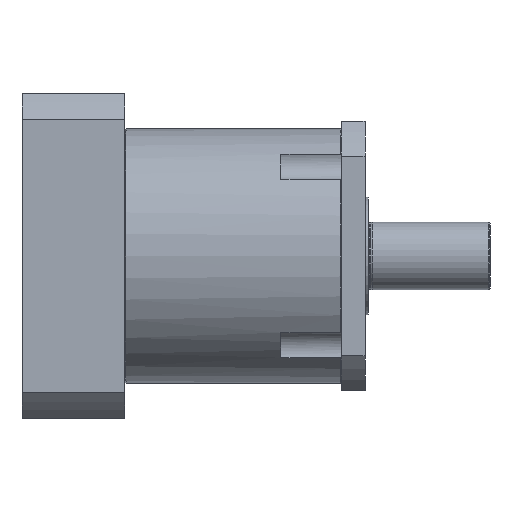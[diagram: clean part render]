
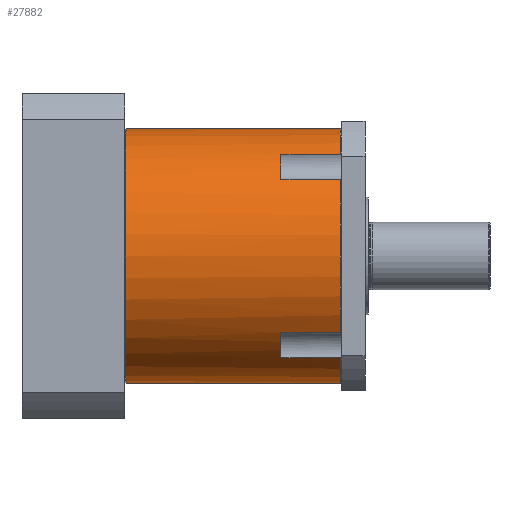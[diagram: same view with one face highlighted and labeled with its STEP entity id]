
A CAD part, front view. The second image highlights one B-rep face of the part: STEP entity #27882.
In plain terms, the highlighted cylindrical face has radius 60 mm (diameter 120 mm), a partial arc.
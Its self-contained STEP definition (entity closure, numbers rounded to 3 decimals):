
#233 = VERTEX_POINT ( 'NONE', #11791 ) ;
#331 = CARTESIAN_POINT ( 'NONE',  ( 87.75, -36.137, -47.897 ) ) ;
#489 = EDGE_CURVE ( 'NONE', #23760, #18349, #8714, .T. ) ;
#797 = CARTESIAN_POINT ( 'NONE',  ( 73.5, 0., 0. ) ) ;
#1077 = CARTESIAN_POINT ( 'NONE',  ( 101.5, 0., 0. ) ) ;
#1363 = LINE ( 'NONE', #22983, #6626 ) ;
#1841 = CARTESIAN_POINT ( 'NONE',  ( 87.75, -36.137, 47.897 ) ) ;
#2742 = VERTEX_POINT ( 'NONE', #17791 ) ;
#3024 = DIRECTION ( 'NONE',  ( 1., 0., 0. ) ) ;
#3394 = ORIENTED_EDGE ( 'NONE', *, *, #12416, .F. ) ;
#3680 = EDGE_CURVE ( 'NONE', #21478, #24561, #8670, .T. ) ;
#3688 = ORIENTED_EDGE ( 'NONE', *, *, #25153, .T. ) ;
#3811 = CARTESIAN_POINT ( 'NONE',  ( 73.5, -36.137, 47.897 ) ) ;
#3874 = LINE ( 'NONE', #1841, #23732 ) ;
#4273 = DIRECTION ( 'NONE',  ( 0., 0., 1. ) ) ;
#4424 = CARTESIAN_POINT ( 'NONE',  ( 73.5, 0., 0. ) ) ;
#4446 = CARTESIAN_POINT ( 'NONE',  ( 101.5, -47.897, -36.137 ) ) ;
#4667 = CARTESIAN_POINT ( 'NONE',  ( 0.5, 0., 0. ) ) ;
#4936 = AXIS2_PLACEMENT_3D ( 'NONE', #797, #23556, #7988 ) ;
#5363 = CARTESIAN_POINT ( 'NONE',  ( 101.5, 0., 0. ) ) ;
#6086 = CIRCLE ( 'NONE', #7966, 60. ) ;
#6444 = ORIENTED_EDGE ( 'NONE', *, *, #8529, .T. ) ;
#6626 = VECTOR ( 'NONE', #27129, 1000. ) ;
#6755 = CARTESIAN_POINT ( 'NONE',  ( 73.5, -36.137, -47.897 ) ) ;
#6989 = CYLINDRICAL_SURFACE ( 'NONE', #26743, 60. ) ;
#7126 = CIRCLE ( 'NONE', #23678, 60. ) ;
#7316 = DIRECTION ( 'NONE',  ( 0., 0., -1. ) ) ;
#7368 = ORIENTED_EDGE ( 'NONE', *, *, #3680, .F. ) ;
#7966 = AXIS2_PLACEMENT_3D ( 'NONE', #4667, #23059, #7316 ) ;
#7988 = DIRECTION ( 'NONE',  ( 0., 0., -1. ) ) ;
#7990 = CARTESIAN_POINT ( 'NONE',  ( 101.5, 0., 0. ) ) ;
#8043 = VECTOR ( 'NONE', #22082, 1000. ) ;
#8049 = CARTESIAN_POINT ( 'NONE',  ( 87.75, -47.897, 36.137 ) ) ;
#8529 = EDGE_CURVE ( 'NONE', #2742, #23760, #6086, .T. ) ;
#8606 = DIRECTION ( 'NONE',  ( 1., 0., 0. ) ) ;
#8670 = CIRCLE ( 'NONE', #4936, 60. ) ;
#8714 = LINE ( 'NONE', #19551, #8043 ) ;
#9185 = LINE ( 'NONE', #331, #9674 ) ;
#9674 = VECTOR ( 'NONE', #25037, 1000. ) ;
#10439 = CIRCLE ( 'NONE', #13760, 60. ) ;
#11349 = EDGE_LOOP ( 'NONE', ( #26325, #6444, #18195, #11532, #18856, #3394, #14671, #22927, #23378, #7368, #3688, #19203 ) ) ;
#11532 = ORIENTED_EDGE ( 'NONE', *, *, #14677, .T. ) ;
#11791 = CARTESIAN_POINT ( 'NONE',  ( 73.5, -47.897, -36.137 ) ) ;
#12317 = EDGE_CURVE ( 'NONE', #17165, #17687, #7126, .T. ) ;
#12365 = DIRECTION ( 'NONE',  ( -1., 0., 0. ) ) ;
#12416 = EDGE_CURVE ( 'NONE', #233, #15031, #10439, .T. ) ;
#13467 = DIRECTION ( 'NONE',  ( 1., 0., 0. ) ) ;
#13713 = CARTESIAN_POINT ( 'NONE',  ( 101.5, 0., 60. ) ) ;
#13760 = AXIS2_PLACEMENT_3D ( 'NONE', #4424, #13467, #20443 ) ;
#13845 = CARTESIAN_POINT ( 'NONE',  ( 101.5, 0., -60. ) ) ;
#14339 = DIRECTION ( 'NONE',  ( 0., 0., -1. ) ) ;
#14378 = CARTESIAN_POINT ( 'NONE',  ( 101.5, -36.137, 47.897 ) ) ;
#14500 = DIRECTION ( 'NONE',  ( 0., 0., 1. ) ) ;
#14671 = ORIENTED_EDGE ( 'NONE', *, *, #21129, .T. ) ;
#14677 = EDGE_CURVE ( 'NONE', #18349, #22472, #18682, .T. ) ;
#15031 = VERTEX_POINT ( 'NONE', #6755 ) ;
#15324 = AXIS2_PLACEMENT_3D ( 'NONE', #7990, #21933, #17028 ) ;
#16010 = CARTESIAN_POINT ( 'NONE',  ( 52.368, 0., 0. ) ) ;
#16924 = EDGE_CURVE ( 'NONE', #2742, #17687, #18441, .T. ) ;
#17028 = DIRECTION ( 'NONE',  ( 0., 0., 1. ) ) ;
#17165 = VERTEX_POINT ( 'NONE', #14378 ) ;
#17687 = VERTEX_POINT ( 'NONE', #13713 ) ;
#17791 = CARTESIAN_POINT ( 'NONE',  ( 0.5, 0., 60. ) ) ;
#18105 = FACE_OUTER_BOUND ( 'NONE', #11349, .T. ) ;
#18195 = ORIENTED_EDGE ( 'NONE', *, *, #489, .T. ) ;
#18344 = CARTESIAN_POINT ( 'NONE',  ( 101.5, -36.137, -47.897 ) ) ;
#18349 = VERTEX_POINT ( 'NONE', #13845 ) ;
#18441 = LINE ( 'NONE', #25546, #22540 ) ;
#18682 = CIRCLE ( 'NONE', #15324, 60. ) ;
#18856 = ORIENTED_EDGE ( 'NONE', *, *, #29076, .T. ) ;
#19203 = ORIENTED_EDGE ( 'NONE', *, *, #12317, .T. ) ;
#19551 = CARTESIAN_POINT ( 'NONE',  ( 52.368, 0., -60. ) ) ;
#20023 = CIRCLE ( 'NONE', #28094, 60. ) ;
#20393 = CARTESIAN_POINT ( 'NONE',  ( 0.5, 0., -60. ) ) ;
#20443 = DIRECTION ( 'NONE',  ( 0., 0., -1. ) ) ;
#21129 = EDGE_CURVE ( 'NONE', #233, #28884, #1363, .T. ) ;
#21262 = LINE ( 'NONE', #8049, #26663 ) ;
#21478 = VERTEX_POINT ( 'NONE', #3811 ) ;
#21933 = DIRECTION ( 'NONE',  ( -1., 0., 0. ) ) ;
#22082 = DIRECTION ( 'NONE',  ( 1., 0., 0. ) ) ;
#22472 = VERTEX_POINT ( 'NONE', #18344 ) ;
#22540 = VECTOR ( 'NONE', #3024, 1000. ) ;
#22927 = ORIENTED_EDGE ( 'NONE', *, *, #26726, .T. ) ;
#22983 = CARTESIAN_POINT ( 'NONE',  ( 87.75, -47.897, -36.137 ) ) ;
#23059 = DIRECTION ( 'NONE',  ( 1., 0., 0. ) ) ;
#23181 = VERTEX_POINT ( 'NONE', #28455 ) ;
#23378 = ORIENTED_EDGE ( 'NONE', *, *, #24009, .T. ) ;
#23556 = DIRECTION ( 'NONE',  ( 1., 0., 0. ) ) ;
#23678 = AXIS2_PLACEMENT_3D ( 'NONE', #5363, #25026, #4273 ) ;
#23732 = VECTOR ( 'NONE', #8606, 1000. ) ;
#23760 = VERTEX_POINT ( 'NONE', #20393 ) ;
#24009 = EDGE_CURVE ( 'NONE', #23181, #24561, #21262, .T. ) ;
#24561 = VERTEX_POINT ( 'NONE', #24562 ) ;
#24562 = CARTESIAN_POINT ( 'NONE',  ( 73.5, -47.897, 36.137 ) ) ;
#25026 = DIRECTION ( 'NONE',  ( -1., 0., 0. ) ) ;
#25037 = DIRECTION ( 'NONE',  ( -1., 0., 0. ) ) ;
#25069 = DIRECTION ( 'NONE',  ( 1., 0., 0. ) ) ;
#25153 = EDGE_CURVE ( 'NONE', #21478, #17165, #3874, .T. ) ;
#25546 = CARTESIAN_POINT ( 'NONE',  ( 52.368, 0., 60. ) ) ;
#26325 = ORIENTED_EDGE ( 'NONE', *, *, #16924, .F. ) ;
#26663 = VECTOR ( 'NONE', #12365, 1000. ) ;
#26726 = EDGE_CURVE ( 'NONE', #28884, #23181, #20023, .T. ) ;
#26743 = AXIS2_PLACEMENT_3D ( 'NONE', #16010, #25069, #14339 ) ;
#27129 = DIRECTION ( 'NONE',  ( 1., 0., 0. ) ) ;
#27882 = ADVANCED_FACE ( 'NONE', ( #18105 ), #6989, .T. ) ;
#28094 = AXIS2_PLACEMENT_3D ( 'NONE', #1077, #28615, #14500 ) ;
#28455 = CARTESIAN_POINT ( 'NONE',  ( 101.5, -47.897, 36.137 ) ) ;
#28615 = DIRECTION ( 'NONE',  ( -1., 0., 0. ) ) ;
#28884 = VERTEX_POINT ( 'NONE', #4446 ) ;
#29076 = EDGE_CURVE ( 'NONE', #22472, #15031, #9185, .T. ) ;
